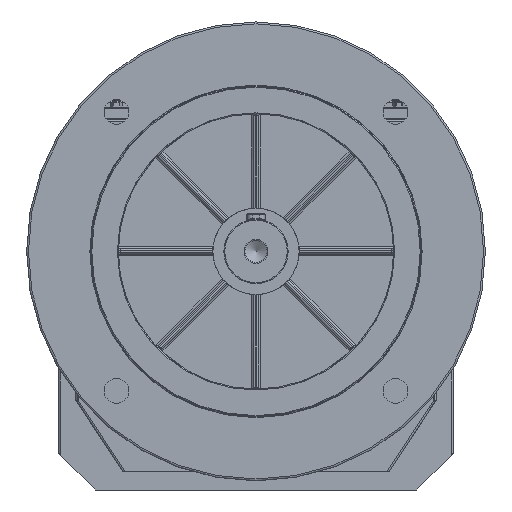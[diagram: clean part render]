
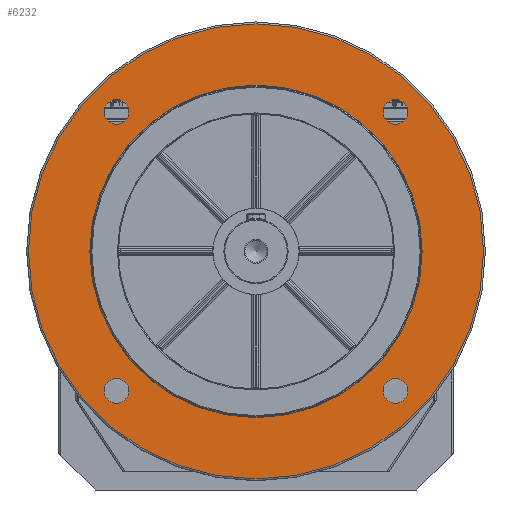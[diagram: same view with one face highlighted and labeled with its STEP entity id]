
A CAD part, front view. The second image highlights one B-rep face of the part: STEP entity #6232.
In plain terms, the highlighted planar face has unit normal (0, -1, 0).
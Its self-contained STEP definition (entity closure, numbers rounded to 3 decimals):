
#105=CARTESIAN_POINT('',(-69.264,-127.5,206.014));
#106=VERTEX_POINT('',#105);
#107=CARTESIAN_POINT('',(-76.014,-127.5,206.014));
#108=DIRECTION('',(0.0,1.0,0.0));
#109=DIRECTION('',(1.0,0.0,0.0));
#110=AXIS2_PLACEMENT_3D('',#107,#108,#109);
#111=CIRCLE('',#110,6.75);
#112=EDGE_CURVE('',#106,#106,#111,.T.);
#154=CARTESIAN_POINT('',(-69.264,-127.5,53.986));
#155=VERTEX_POINT('',#154);
#156=CARTESIAN_POINT('',(-76.014,-127.5,53.986));
#157=DIRECTION('',(0.0,1.0,0.0));
#158=DIRECTION('',(1.0,0.0,0.0));
#159=AXIS2_PLACEMENT_3D('',#156,#157,#158);
#160=CIRCLE('',#159,6.75);
#161=EDGE_CURVE('',#155,#155,#160,.T.);
#203=CARTESIAN_POINT('',(82.764,-127.5,53.986));
#204=VERTEX_POINT('',#203);
#205=CARTESIAN_POINT('',(76.014,-127.5,53.986));
#206=DIRECTION('',(0.0,1.0,0.0));
#207=DIRECTION('',(1.0,0.0,0.0));
#208=AXIS2_PLACEMENT_3D('',#205,#206,#207);
#209=CIRCLE('',#208,6.75);
#210=EDGE_CURVE('',#204,#204,#209,.T.);
#252=CARTESIAN_POINT('',(82.764,-127.5,206.014));
#253=VERTEX_POINT('',#252);
#254=CARTESIAN_POINT('',(76.014,-127.5,206.014));
#255=DIRECTION('',(0.0,1.0,0.0));
#256=DIRECTION('',(1.0,0.0,0.0));
#257=AXIS2_PLACEMENT_3D('',#254,#255,#256);
#258=CIRCLE('',#257,6.75);
#259=EDGE_CURVE('',#253,#253,#258,.T.);
#6186=CARTESIAN_POINT('',(0.0,-127.5,254.0));
#6187=VERTEX_POINT('',#6186);
#6188=CARTESIAN_POINT('',(0.0,-127.5,130.));
#6189=DIRECTION('',(0.0,1.0,0.0));
#6190=DIRECTION('',(0.0,0.0,-1.0));
#6191=AXIS2_PLACEMENT_3D('',#6188,#6189,#6190);
#6192=CIRCLE('',#6191,124.);
#6193=EDGE_CURVE('',#6187,#6187,#6192,.T.);
#6201=CARTESIAN_POINT('',(0.0,-127.5,237.5));
#6202=DIRECTION('',(0.0,-1.0,0.0));
#6203=DIRECTION('',(0.0,0.0,-1.0));
#6204=AXIS2_PLACEMENT_3D('',#6201,#6202,#6203);
#6205=PLANE('',#6204);
#6206=ORIENTED_EDGE('',*,*,#6193,.F.);
#6207=EDGE_LOOP('',(#6206));
#6208=FACE_OUTER_BOUND('',#6207,.T.);
#6209=ORIENTED_EDGE('',*,*,#112,.T.);
#6210=EDGE_LOOP('',(#6209));
#6211=FACE_BOUND('',#6210,.T.);
#6212=ORIENTED_EDGE('',*,*,#161,.T.);
#6213=EDGE_LOOP('',(#6212));
#6214=FACE_BOUND('',#6213,.T.);
#6215=ORIENTED_EDGE('',*,*,#210,.T.);
#6216=EDGE_LOOP('',(#6215));
#6217=FACE_BOUND('',#6216,.T.);
#6218=ORIENTED_EDGE('',*,*,#259,.T.);
#6219=EDGE_LOOP('',(#6218));
#6220=FACE_BOUND('',#6219,.T.);
#6221=CARTESIAN_POINT('',(0.,-127.5,220.5));
#6222=VERTEX_POINT('',#6221);
#6223=CARTESIAN_POINT('',(0.0,-127.5,130.));
#6224=DIRECTION('',(0.0,-1.0,0.0));
#6225=DIRECTION('',(0.0,0.0,-1.0));
#6226=AXIS2_PLACEMENT_3D('',#6223,#6224,#6225);
#6227=CIRCLE('',#6226,90.5);
#6228=EDGE_CURVE('',#6222,#6222,#6227,.T.);
#6229=ORIENTED_EDGE('',*,*,#6228,.F.);
#6230=EDGE_LOOP('',(#6229));
#6231=FACE_BOUND('',#6230,.T.);
#6232=ADVANCED_FACE('',(#6208,#6211,#6214,#6217,#6220,#6231),#6205,.T.);
